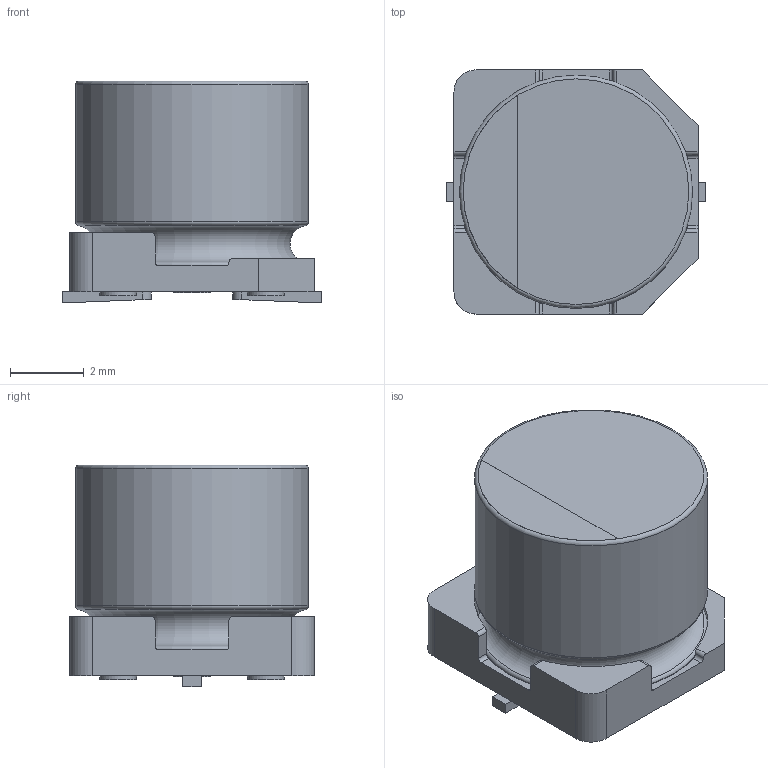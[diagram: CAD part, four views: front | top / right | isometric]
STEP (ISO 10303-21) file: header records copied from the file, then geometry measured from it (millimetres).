
FILE_DESCRIPTION(/* description */ (''),/* implementation_level */ '2;1');
FILE_NAME(/* name */ '6.3x6_Chip.stp',/* time_stamp */ '2017-09-04T17:09:30+09:00',/* author */ (''),/* organization */ (''),/* preprocessor_version */ 'ST-DEVELOPER v16',/* originating_system */ 'SIEMENS PLM Software NX 11.0',/* authorisation */ '');
FILE_SCHEMA (('AUTOMOTIVE_DESIGN { 1 0 10303 214 3 1 1 1 }'));
Length unit declared in the file: millimetre
Products named in the file (1): 6.3x6_Chip_0
Bounding box: 7 x 6.6 x 6 mm (x, y, z)
Volume: 183.6 mm3; surface area: 303.1 mm2
Topology: 5 solids, 5 shells, 74 faces, 175 edges, 116 vertices
Faces by surface type: plane 36, cylinder 34, torus 4
Full cylindrical faces by diameter (mm): 1 x5, 6.3 x2
Entity records: 2304 total; most frequent: CARTESIAN_POINT 485, DIRECTION 350, ORIENTED_EDGE 322, EDGE_CURVE 161, AXIS2_PLACEMENT_3D 130, VERTEX_POINT 113, EDGE_LOOP 90, LINE 90
